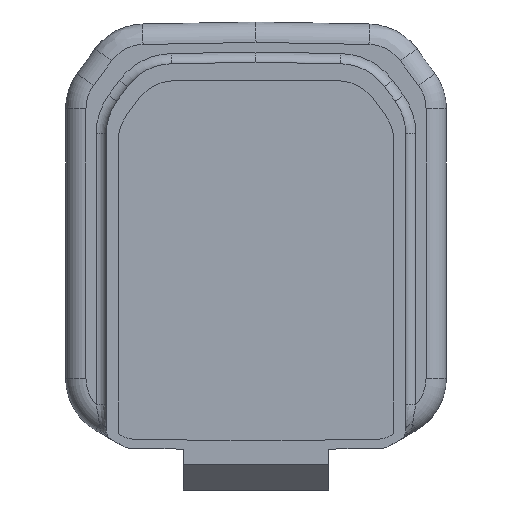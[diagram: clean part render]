
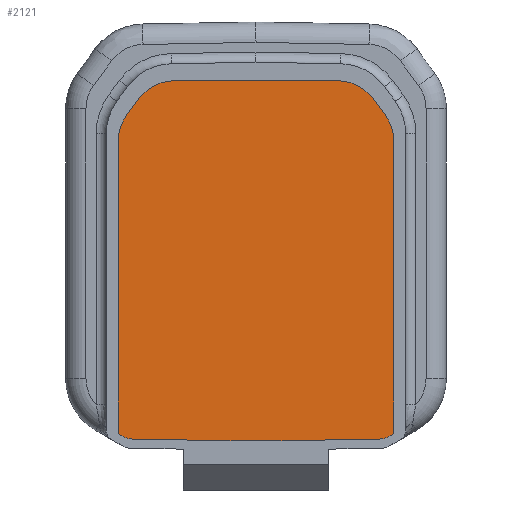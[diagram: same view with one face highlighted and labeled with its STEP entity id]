
A CAD part, front view. The second image highlights one B-rep face of the part: STEP entity #2121.
In plain terms, the highlighted planar face has unit normal (0, -1, 0).
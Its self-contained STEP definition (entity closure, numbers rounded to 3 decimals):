
#144=CIRCLE('',#2268,3.6);
#145=CIRCLE('',#2269,2.);
#146=CIRCLE('',#2270,9.);
#147=CIRCLE('',#2271,9.);
#148=CIRCLE('',#2272,9.);
#149=CIRCLE('',#2273,9.);
#150=CIRCLE('',#2274,2.);
#151=CIRCLE('',#2275,3.6);
#272=ORIENTED_EDGE('',*,*,#932,.F.);
#273=ORIENTED_EDGE('',*,*,#933,.T.);
#274=ORIENTED_EDGE('',*,*,#934,.T.);
#275=ORIENTED_EDGE('',*,*,#935,.T.);
#276=ORIENTED_EDGE('',*,*,#936,.T.);
#277=ORIENTED_EDGE('',*,*,#937,.F.);
#278=ORIENTED_EDGE('',*,*,#938,.F.);
#279=ORIENTED_EDGE('',*,*,#939,.F.);
#280=ORIENTED_EDGE('',*,*,#940,.F.);
#281=ORIENTED_EDGE('',*,*,#941,.F.);
#282=ORIENTED_EDGE('',*,*,#942,.F.);
#283=ORIENTED_EDGE('',*,*,#943,.F.);
#284=ORIENTED_EDGE('',*,*,#944,.F.);
#285=ORIENTED_EDGE('',*,*,#945,.F.);
#286=ORIENTED_EDGE('',*,*,#946,.T.);
#287=ORIENTED_EDGE('',*,*,#947,.T.);
#288=ORIENTED_EDGE('',*,*,#948,.T.);
#289=ORIENTED_EDGE('',*,*,#949,.T.);
#932=EDGE_CURVE('',#1262,#1263,#1462,.T.);
#933=EDGE_CURVE('',#1262,#1264,#1463,.T.);
#934=EDGE_CURVE('',#1264,#1265,#144,.F.);
#935=EDGE_CURVE('',#1265,#1266,#1464,.T.);
#936=EDGE_CURVE('',#1266,#1267,#145,.F.);
#937=EDGE_CURVE('',#1268,#1267,#1465,.T.);
#938=EDGE_CURVE('',#1269,#1268,#146,.T.);
#939=EDGE_CURVE('',#1270,#1269,#1466,.T.);
#940=EDGE_CURVE('',#1271,#1270,#147,.T.);
#941=EDGE_CURVE('',#1272,#1271,#1467,.T.);
#942=EDGE_CURVE('',#1273,#1272,#148,.T.);
#943=EDGE_CURVE('',#1274,#1273,#1468,.T.);
#944=EDGE_CURVE('',#1275,#1274,#149,.T.);
#945=EDGE_CURVE('',#1276,#1275,#1469,.T.);
#946=EDGE_CURVE('',#1276,#1277,#150,.F.);
#947=EDGE_CURVE('',#1277,#1278,#1470,.T.);
#948=EDGE_CURVE('',#1278,#1279,#151,.F.);
#949=EDGE_CURVE('',#1279,#1263,#1471,.T.);
#1262=VERTEX_POINT('',#3203);
#1263=VERTEX_POINT('',#3204);
#1264=VERTEX_POINT('',#3206);
#1265=VERTEX_POINT('',#3208);
#1266=VERTEX_POINT('',#3210);
#1267=VERTEX_POINT('',#3212);
#1268=VERTEX_POINT('',#3214);
#1269=VERTEX_POINT('',#3216);
#1270=VERTEX_POINT('',#3218);
#1271=VERTEX_POINT('',#3220);
#1272=VERTEX_POINT('',#3222);
#1273=VERTEX_POINT('',#3224);
#1274=VERTEX_POINT('',#3226);
#1275=VERTEX_POINT('',#3228);
#1276=VERTEX_POINT('',#3230);
#1277=VERTEX_POINT('',#3232);
#1278=VERTEX_POINT('',#3234);
#1279=VERTEX_POINT('',#3236);
#1462=LINE('',#3202,#1640);
#1463=LINE('',#3205,#1641);
#1464=LINE('',#3209,#1642);
#1465=LINE('',#3213,#1643);
#1466=LINE('',#3217,#1644);
#1467=LINE('',#3221,#1645);
#1468=LINE('',#3225,#1646);
#1469=LINE('',#3229,#1647);
#1470=LINE('',#3233,#1648);
#1471=LINE('',#3237,#1649);
#1640=VECTOR('',#2528,1000.);
#1641=VECTOR('',#2529,1000.);
#1642=VECTOR('',#2532,1000.);
#1643=VECTOR('',#2535,1000.);
#1644=VECTOR('',#2538,1000.);
#1645=VECTOR('',#2541,1000.);
#1646=VECTOR('',#2544,1000.);
#1647=VECTOR('',#2547,1000.);
#1648=VECTOR('',#2550,1000.);
#1649=VECTOR('',#2553,1000.);
#1808=EDGE_LOOP('',(#272,#273,#274,#275,#276,#277,#278,#279,#280,#281,#282,
#283,#284,#285,#286,#287,#288,#289));
#1942=FACE_BOUND('',#1808,.T.);
#2076=PLANE('',#2267);
#2121=ADVANCED_FACE('',(#1942),#2076,.F.);
#2267=AXIS2_PLACEMENT_3D('',#3201,#2526,#2527);
#2268=AXIS2_PLACEMENT_3D('',#3207,#2530,#2531);
#2269=AXIS2_PLACEMENT_3D('',#3211,#2533,#2534);
#2270=AXIS2_PLACEMENT_3D('',#3215,#2536,#2537);
#2271=AXIS2_PLACEMENT_3D('',#3219,#2539,#2540);
#2272=AXIS2_PLACEMENT_3D('',#3223,#2542,#2543);
#2273=AXIS2_PLACEMENT_3D('',#3227,#2545,#2546);
#2274=AXIS2_PLACEMENT_3D('',#3231,#2548,#2549);
#2275=AXIS2_PLACEMENT_3D('',#3235,#2551,#2552);
#2526=DIRECTION('',(0.,1.,0.));
#2527=DIRECTION('',(0.,0.,1.));
#2528=DIRECTION('',(-1.,0.,0.));
#2529=DIRECTION('',(1.,0.,0.017));
#2530=DIRECTION('',(0.,1.,0.));
#2531=DIRECTION('',(0.,0.,1.));
#2532=DIRECTION('',(0.866,0.,0.5));
#2533=DIRECTION('',(0.,1.,0.));
#2534=DIRECTION('',(0.,0.,1.));
#2535=DIRECTION('',(0.,0.,-1.));
#2536=DIRECTION('',(0.,1.,0.));
#2537=DIRECTION('',(-1.,0.,0.));
#2538=DIRECTION('',(0.588,0.,-0.809));
#2539=DIRECTION('',(0.,1.,0.));
#2540=DIRECTION('',(1.,0.,0.));
#2541=DIRECTION('',(1.,0.,0.));
#2542=DIRECTION('',(0.,1.,0.));
#2543=DIRECTION('',(1.,0.,0.));
#2544=DIRECTION('',(0.588,0.,0.809));
#2545=DIRECTION('',(0.,1.,0.));
#2546=DIRECTION('',(1.,0.,0.));
#2547=DIRECTION('',(0.,0.,1.));
#2548=DIRECTION('',(0.,1.,0.));
#2549=DIRECTION('',(0.,0.,1.));
#2550=DIRECTION('',(0.866,0.,-0.5));
#2551=DIRECTION('',(0.,1.,0.));
#2552=DIRECTION('',(0.,0.,1.));
#2553=DIRECTION('',(1.,0.,-0.017));
#3201=CARTESIAN_POINT('',(-18.,-6.5,22.25));
#3202=CARTESIAN_POINT('',(-18.,-6.5,-36.294));
#3203=CARTESIAN_POINT('',(4.5,-6.5,-36.294));
#3204=CARTESIAN_POINT('',(-4.5,-6.5,-36.294));
#3205=CARTESIAN_POINT('',(24.262,-6.5,-35.949));
#3206=CARTESIAN_POINT('',(24.262,-6.5,-35.949));
#3207=CARTESIAN_POINT('',(24.199,-6.5,-32.35));
#3208=CARTESIAN_POINT('',(25.999,-6.5,-35.468));
#3209=CARTESIAN_POINT('',(26.5,-6.5,-35.178));
#3210=CARTESIAN_POINT('',(26.5,-6.5,-35.178));
#3211=CARTESIAN_POINT('',(25.5,-6.5,-33.446));
#3212=CARTESIAN_POINT('',(27.,-6.5,-34.769));
#3213=CARTESIAN_POINT('',(27.,-6.5,22.25));
#3214=CARTESIAN_POINT('',(27.,-6.5,22.25));
#3215=CARTESIAN_POINT('',(18.,-6.5,22.25));
#3216=CARTESIAN_POINT('',(25.281,-6.5,27.54));
#3217=CARTESIAN_POINT('',(25.281,-6.5,27.54));
#3218=CARTESIAN_POINT('',(23.102,-6.5,30.54));
#3219=CARTESIAN_POINT('',(15.82,-6.5,25.25));
#3220=CARTESIAN_POINT('',(15.82,-6.5,34.25));
#3221=CARTESIAN_POINT('',(-15.82,-6.5,34.25));
#3222=CARTESIAN_POINT('',(-15.82,-6.5,34.25));
#3223=CARTESIAN_POINT('',(-15.82,-6.5,25.25));
#3224=CARTESIAN_POINT('',(-23.102,-6.5,30.54));
#3225=CARTESIAN_POINT('',(-25.281,-6.5,27.54));
#3226=CARTESIAN_POINT('',(-25.281,-6.5,27.54));
#3227=CARTESIAN_POINT('',(-18.,-6.5,22.25));
#3228=CARTESIAN_POINT('',(-27.,-6.5,22.25));
#3229=CARTESIAN_POINT('',(-27.,-6.5,-36.815));
#3230=CARTESIAN_POINT('',(-27.,-6.5,-34.769));
#3231=CARTESIAN_POINT('',(-25.5,-6.5,-33.446));
#3232=CARTESIAN_POINT('',(-26.5,-6.5,-35.178));
#3233=CARTESIAN_POINT('',(-26.5,-6.5,-35.178));
#3234=CARTESIAN_POINT('',(-25.999,-6.5,-35.468));
#3235=CARTESIAN_POINT('',(-24.199,-6.5,-32.35));
#3236=CARTESIAN_POINT('',(-24.262,-6.5,-35.949));
#3237=CARTESIAN_POINT('',(-24.262,-6.5,-35.949));
